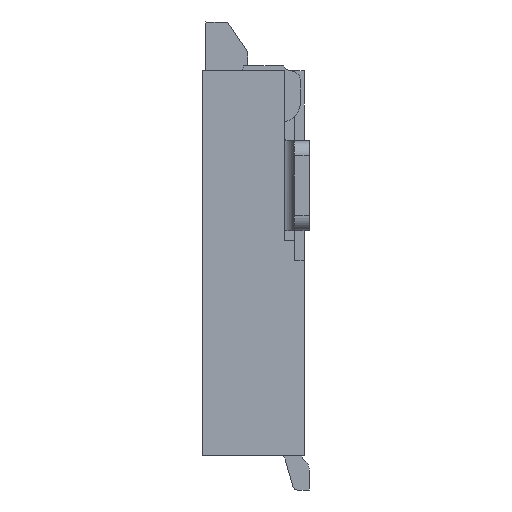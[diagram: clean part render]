
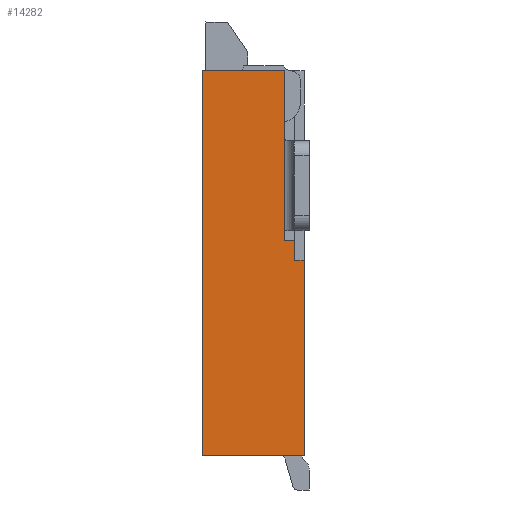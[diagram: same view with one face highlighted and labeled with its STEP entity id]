
A CAD part, left-side view. The second image highlights one B-rep face of the part: STEP entity #14282.
In plain terms, the highlighted planar face has unit normal (-1, 0, 0).
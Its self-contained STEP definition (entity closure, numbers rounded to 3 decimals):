
#17=DIRECTION('',(0.,0.,-1.));
#18=VECTOR('',#17,1.95);
#19=CARTESIAN_POINT('',(-5.75,-1.,-1.9));
#20=LINE('',#19,#18);
#45=DIRECTION('',(0.,1.,0.));
#46=VECTOR('',#45,1.02);
#47=CARTESIAN_POINT('',(-5.75,-1.,-3.85));
#48=LINE('',#47,#46);
#339=DIRECTION('',(0.,-1.,0.));
#340=VECTOR('',#339,0.82);
#341=CARTESIAN_POINT('',(-5.75,0.02,0.));
#342=LINE('',#341,#340);
#383=DIRECTION('',(0.,0.,1.));
#384=VECTOR('',#383,0.2);
#385=CARTESIAN_POINT('',(-5.75,-0.9,-1.9));
#386=LINE('',#385,#384);
#671=DIRECTION('',(0.,0.,1.));
#672=VECTOR('',#671,1.7);
#673=CARTESIAN_POINT('',(-5.75,-0.8,-1.7));
#674=LINE('',#673,#672);
#763=DIRECTION('',(0.,0.,1.));
#764=VECTOR('',#763,3.85);
#765=CARTESIAN_POINT('',(-5.75,0.02,-3.85));
#766=LINE('',#765,#764);
#911=DIRECTION('',(0.,-1.,0.));
#912=VECTOR('',#911,0.1);
#913=CARTESIAN_POINT('',(-5.75,-0.8,-1.7));
#914=LINE('',#913,#912);
#10907=DIRECTION('',(0.,-1.,0.));
#10908=VECTOR('',#10907,0.1);
#10909=CARTESIAN_POINT('',(-5.75,-0.9,-1.9));
#10910=LINE('',#10909,#10908);
#10927=CARTESIAN_POINT('',(-5.75,0.02,-3.85));
#10929=VERTEX_POINT('',#10927);
#12139=CARTESIAN_POINT('',(-5.75,-1.,-1.9));
#12140=CARTESIAN_POINT('',(-5.75,-1.,-3.85));
#12141=VERTEX_POINT('',#12139);
#12142=VERTEX_POINT('',#12140);
#12143=CARTESIAN_POINT('',(-5.75,-0.9,-1.9));
#12144=VERTEX_POINT('',#12143);
#12145=CARTESIAN_POINT('',(-5.75,-0.9,-1.7));
#12146=VERTEX_POINT('',#12145);
#12147=CARTESIAN_POINT('',(-5.75,-0.8,-1.7));
#12148=CARTESIAN_POINT('',(-5.75,-0.8,0.));
#12149=VERTEX_POINT('',#12147);
#12150=VERTEX_POINT('',#12148);
#12151=CARTESIAN_POINT('',(-5.75,0.02,0.));
#12152=VERTEX_POINT('',#12151);
#14259=CARTESIAN_POINT('',(-5.75,-0.49,-1.925));
#14260=DIRECTION('',(1.,0.,0.));
#14261=DIRECTION('',(0.,0.,-1.));
#14262=AXIS2_PLACEMENT_3D('',#14259,#14260,#14261);
#14263=PLANE('',#14262);
#14265=ORIENTED_EDGE('',*,*,#14264,.T.);
#14267=ORIENTED_EDGE('',*,*,#14266,.T.);
#14269=ORIENTED_EDGE('',*,*,#14268,.T.);
#14271=ORIENTED_EDGE('',*,*,#14270,.T.);
#14273=ORIENTED_EDGE('',*,*,#14272,.F.);
#14275=ORIENTED_EDGE('',*,*,#14274,.T.);
#14277=ORIENTED_EDGE('',*,*,#14276,.F.);
#14279=ORIENTED_EDGE('',*,*,#14278,.T.);
#14280=EDGE_LOOP('',(#14265,#14267,#14269,#14271,#14273,#14275,#14277,#14279));
#14281=FACE_OUTER_BOUND('',#14280,.F.);
#14264=EDGE_CURVE('',#12141,#12142,#20,.T.);
#14266=EDGE_CURVE('',#12142,#10929,#48,.T.);
#14268=EDGE_CURVE('',#10929,#12152,#766,.T.);
#14270=EDGE_CURVE('',#12152,#12150,#342,.T.);
#14272=EDGE_CURVE('',#12149,#12150,#674,.T.);
#14274=EDGE_CURVE('',#12149,#12146,#914,.T.);
#14276=EDGE_CURVE('',#12144,#12146,#386,.T.);
#14278=EDGE_CURVE('',#12144,#12141,#10910,.T.);
#14282=ADVANCED_FACE('',(#14281),#14263,.F.);
